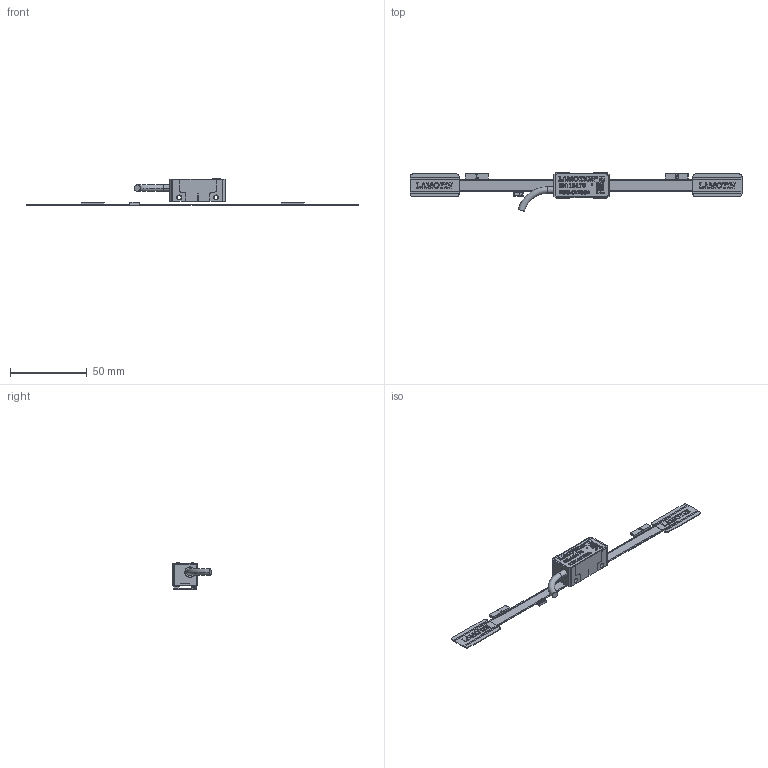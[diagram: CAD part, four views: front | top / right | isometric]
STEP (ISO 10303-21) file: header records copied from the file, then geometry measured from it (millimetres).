
FILE_DESCRIPTION (( 'STEP AP203' ), '1' );
FILE_NAME ('RU2 莉こ假蚾尨砩芞2025.STEP', '2025-06-06T03:29:45', ( '' ), ( '' ), 'SwSTEP 2.0', 'SolidWorks 2024', '' );
FILE_SCHEMA (( 'CONFIG_CONTROL_DESIGN' ));
Length unit declared in the file: millimetre
Products named in the file (15): 固定线铝环; pvc tie mo-RU2; 原点磁铁_1; hex socket set screws with cone point gb_GB_FASTENER_SCREWS_HSCP M1.6X4-N_1; 导线; RU2 产品安装示意图2025; RX2-LMT-L-R 双限位磁铁; pvc tie mo-06-2weima; Ru2; RU2 端压片; 原点磁铁1; 磁铁_1; RU2 端压片反; RU2 读数头壳体 网站版SLDPRT; 8mm 钢带
Assembly tree (15 placements, depth 3):
  RU2 产品安装示意图2025
    Ru2
      pvc tie mo-06-2weima
      RU2 读数头壳体 网站版SLDPRT
      固定线铝环
      导线
    8mm 钢带
    原点磁铁1
      原点磁铁_1
      磁铁_1
      hex socket set screws with cone point gb_GB_FASTENER_SCREWS_HSCP M1.6X4-N_1
    RU2 端压片
    RU2 端压片反
    RX2-LMT-L-R 双限位磁铁  x2
    pvc tie mo-RU2
Bounding box: 216 x 25.01 x 17.1 mm (x, y, z)
Volume: 7604.2 mm3; surface area: 12021.9 mm2
Topology: 29 solids, 29 shells, 1586 faces, 4274 edges, 2832 vertices
Faces by surface type: plane 1101, bspline 351, cylinder 110, cone 16, torus 8
Entity records: 67299 total; most frequent: CARTESIAN_POINT 29474, ORIENTED_EDGE 8210, DIRECTION 6074, EDGE_CURVE 4105, VECTOR 3162, LINE 3162, VERTEX_POINT 2726, EDGE_LOOP 1641
